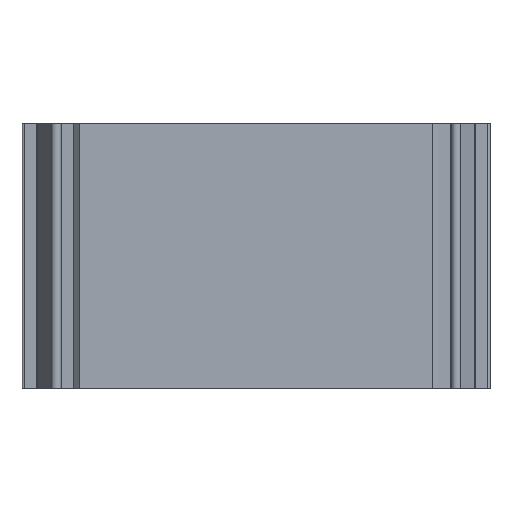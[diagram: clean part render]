
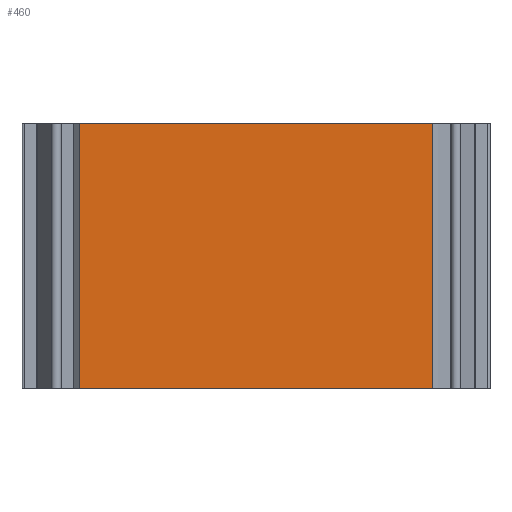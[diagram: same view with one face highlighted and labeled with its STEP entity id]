
A CAD part, front view. The second image highlights one B-rep face of the part: STEP entity #460.
In plain terms, the highlighted planar face has unit normal (0, -1, 0).
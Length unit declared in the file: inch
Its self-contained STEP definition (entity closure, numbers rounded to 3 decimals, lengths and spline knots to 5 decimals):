
#404=CARTESIAN_POINT('',(0.66929,-0.01969,1.0));
#405=VERTEX_POINT('',#404);
#412=CARTESIAN_POINT('',(0.66929,-0.01969,0.0));
#413=VERTEX_POINT('',#412);
#414=CARTESIAN_POINT('',(0.66929,-0.01969,0.0));
#415=DIRECTION('',(0.0,0.0,1.0));
#416=VECTOR('',#415,1.0);
#417=LINE('',#414,#416);
#418=EDGE_CURVE('',#413,#405,#417,.T.);
#430=CARTESIAN_POINT('',(0.66929,-0.01969,0.0));
#431=DIRECTION('',(0.0,-1.0,0.0));
#432=DIRECTION('',(0.0,0.0,-1.0));
#433=AXIS2_PLACEMENT_3D('',#430,#431,#432);
#434=PLANE('',#433);
#435=CARTESIAN_POINT('',(-0.66929,-0.01969,1.0));
#436=VERTEX_POINT('',#435);
#437=CARTESIAN_POINT('',(0.66929,-0.01969,1.0));
#438=DIRECTION('',(-1.0,0.0,0.0));
#439=VECTOR('',#438,1.33858);
#440=LINE('',#437,#439);
#441=EDGE_CURVE('',#405,#436,#440,.T.);
#442=ORIENTED_EDGE('',*,*,#441,.T.);
#443=CARTESIAN_POINT('',(-0.66929,-0.01969,0.0));
#444=VERTEX_POINT('',#443);
#445=CARTESIAN_POINT('',(-0.66929,-0.01969,0.0));
#446=DIRECTION('',(0.0,0.0,1.0));
#447=VECTOR('',#446,1.0);
#448=LINE('',#445,#447);
#449=EDGE_CURVE('',#444,#436,#448,.T.);
#450=ORIENTED_EDGE('',*,*,#449,.F.);
#451=CARTESIAN_POINT('',(-0.66929,-0.01969,0.0));
#452=DIRECTION('',(1.0,0.0,0.0));
#453=VECTOR('',#452,1.33858);
#454=LINE('',#451,#453);
#455=EDGE_CURVE('',#444,#413,#454,.T.);
#456=ORIENTED_EDGE('',*,*,#455,.T.);
#457=ORIENTED_EDGE('',*,*,#418,.T.);
#458=EDGE_LOOP('',(#442,#450,#456,#457));
#459=FACE_OUTER_BOUND('',#458,.T.);
#460=ADVANCED_FACE('',(#459),#434,.T.);
